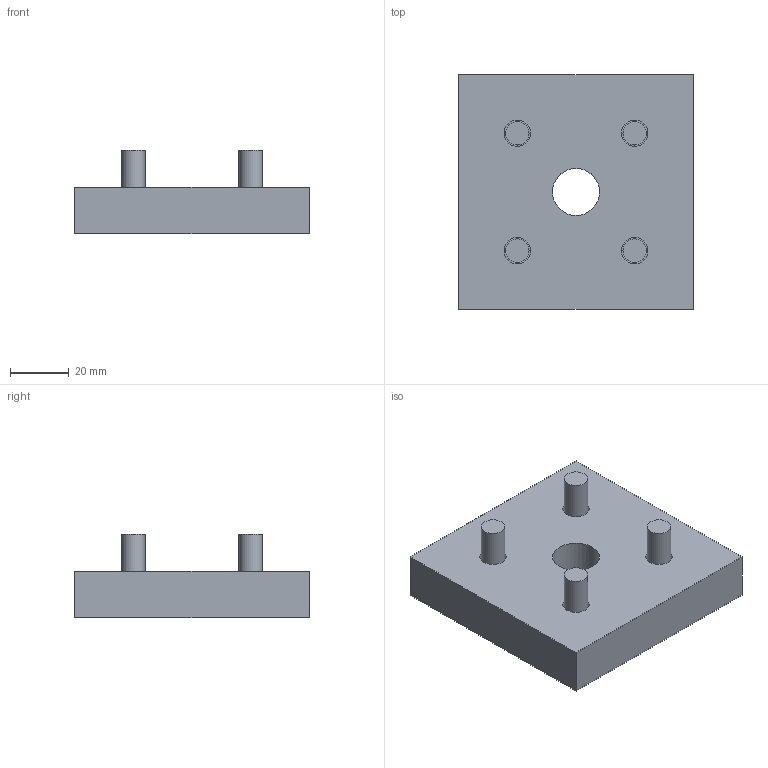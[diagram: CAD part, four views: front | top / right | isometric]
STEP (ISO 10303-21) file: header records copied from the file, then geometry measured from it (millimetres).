
FILE_DESCRIPTION((''),'2;1');
FILE_NAME('C:\Documents and Settings\古川典政\My Documents\Inventor\HP用\MasterData\ACCESSORY\M8\LFB-8080-8.stp','2008-08-05T16:56:57',(''),(''),'Autodesk Inventor 2008','Autodesk Inventor 2008','');
FILE_SCHEMA(('CONFIG_CONTROL_DESIGN'));
Length unit declared in the file: millimetre
Products named in the file (6): LFB-8080-8; LFB-8080-81; LFB-8080-82; LFB-8080-83; LFB-8080-84; LFB-8080-85
Assembly tree (5 placements, depth 2):
  LFB-8080-8
    LFB-8080-81
    LFB-8080-82
    LFB-8080-83
    LFB-8080-84
    LFB-8080-85
Bounding box: 80 x 80 x 28.6 mm (x, y, z)
Volume: 100276.2 mm3; surface area: 24541.7 mm2
Topology: 5 solids, 5 shells, 39 faces, 64 edges, 43 vertices
Faces by surface type: plane 18, bspline 13, cylinder 8
Full cylindrical faces by diameter (mm): 8 x4, 13 x4
Entity records: 1122 total; most frequent: CARTESIAN_POINT 303, DIRECTION 154, ORIENTED_EDGE 92, EDGE_LOOP 74, AXIS2_PLACEMENT_3D 71, EDGE_CURVE 46, VERTEX_POINT 42, FACE_OUTER_BOUND 39
